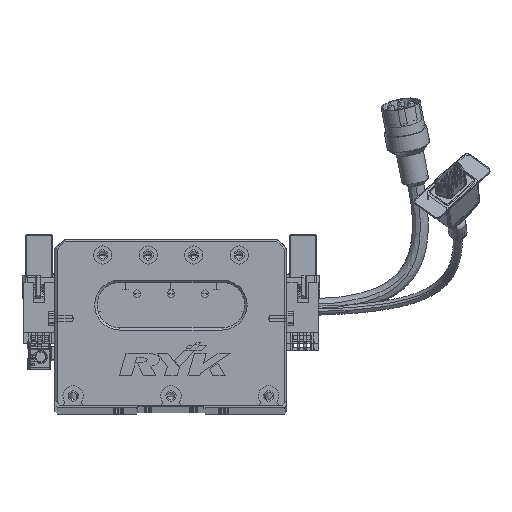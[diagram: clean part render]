
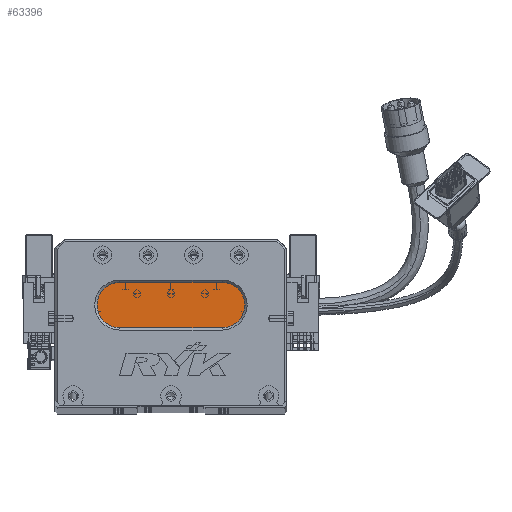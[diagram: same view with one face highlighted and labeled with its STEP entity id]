
A CAD part, top view. The second image highlights one B-rep face of the part: STEP entity #63396.
In plain terms, the highlighted planar face has unit normal (0, 0, 1) as drawn and (0, 0, -1) by its records, which use the part's own axes.
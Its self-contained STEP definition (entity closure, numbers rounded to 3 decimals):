
#1055 = DIRECTION ( 'NONE',  ( -1., 0., 0. ) ) ;
#1830 = CARTESIAN_POINT ( 'NONE',  ( 73.5, 44., 13. ) ) ;
#2141 = CARTESIAN_POINT ( 'NONE',  ( 28.5, 44., 13. ) ) ;
#2417 = ORIENTED_EDGE ( 'NONE', *, *, #19281, .T. ) ;
#2999 = AXIS2_PLACEMENT_3D ( 'NONE', #2141, #74095, #32669 ) ;
#4353 = CARTESIAN_POINT ( 'NONE',  ( 73.5, 34., 13. ) ) ;
#5243 = FACE_OUTER_BOUND ( 'NONE', #35099, .T. ) ;
#6584 = ORIENTED_EDGE ( 'NONE', *, *, #21841, .T. ) ;
#6749 = CARTESIAN_POINT ( 'NONE',  ( 28.5, 34., 13. ) ) ;
#8367 = VECTOR ( 'NONE', #76202, 1000. ) ;
#10508 = VERTEX_POINT ( 'NONE', #6749 ) ;
#11149 = CARTESIAN_POINT ( 'NONE',  ( 18.5, 44., 13. ) ) ;
#11442 = LINE ( 'NONE', #28009, #35642 ) ;
#11472 = CARTESIAN_POINT ( 'NONE',  ( 28.5, 54., 13. ) ) ;
#12181 = AXIS2_PLACEMENT_3D ( 'NONE', #1830, #13858, #1055 ) ;
#13858 = DIRECTION ( 'NONE',  ( 0., 0., -1. ) ) ;
#19261 = DIRECTION ( 'NONE',  ( -1., 0., 0. ) ) ;
#19281 = EDGE_CURVE ( 'NONE', #77359, #59869, #19593, .T. ) ;
#19593 = LINE ( 'NONE', #59003, #8367 ) ;
#21841 = EDGE_CURVE ( 'NONE', #10508, #38362, #77103, .T. ) ;
#21873 = CIRCLE ( 'NONE', #32222, 10. ) ;
#23909 = AXIS2_PLACEMENT_3D ( 'NONE', #60438, #24719, #32253 ) ;
#24719 = DIRECTION ( 'NONE',  ( 0., 0., -1. ) ) ;
#25232 = DIRECTION ( 'NONE',  ( 0., 0., -1. ) ) ;
#28009 = CARTESIAN_POINT ( 'NONE',  ( 73.5, 34., 13. ) ) ;
#31802 = PLANE ( 'NONE',  #12181 ) ;
#32222 = AXIS2_PLACEMENT_3D ( 'NONE', #72400, #25232, #19261 ) ;
#32253 = DIRECTION ( 'NONE',  ( -1., 0., 0. ) ) ;
#32539 = CARTESIAN_POINT ( 'NONE',  ( 73.5, 54., 13. ) ) ;
#32669 = DIRECTION ( 'NONE',  ( -1., 0., 0. ) ) ;
#35099 = EDGE_LOOP ( 'NONE', ( #44145, #40413, #6584, #72813, #2417 ) ) ;
#35642 = VECTOR ( 'NONE', #75443, 1000. ) ;
#38362 = VERTEX_POINT ( 'NONE', #11149 ) ;
#40413 = ORIENTED_EDGE ( 'NONE', *, *, #46760, .T. ) ;
#44145 = ORIENTED_EDGE ( 'NONE', *, *, #68112, .T. ) ;
#46760 = EDGE_CURVE ( 'NONE', #75207, #10508, #11442, .T. ) ;
#59003 = CARTESIAN_POINT ( 'NONE',  ( 73.5, 54., 13. ) ) ;
#59869 = VERTEX_POINT ( 'NONE', #32539 ) ;
#60438 = CARTESIAN_POINT ( 'NONE',  ( 73.5, 44., 13. ) ) ;
#63396 = ADVANCED_FACE ( 'NONE', ( #5243 ), #31802, .T. ) ;
#65273 = EDGE_CURVE ( 'NONE', #38362, #77359, #21873, .T. ) ;
#68112 = EDGE_CURVE ( 'NONE', #59869, #75207, #73611, .T. ) ;
#72400 = CARTESIAN_POINT ( 'NONE',  ( 28.5, 44., 13. ) ) ;
#72813 = ORIENTED_EDGE ( 'NONE', *, *, #65273, .T. ) ;
#73611 = CIRCLE ( 'NONE', #23909, 10. ) ;
#74095 = DIRECTION ( 'NONE',  ( 0., 0., -1. ) ) ;
#75207 = VERTEX_POINT ( 'NONE', #4353 ) ;
#75443 = DIRECTION ( 'NONE',  ( -1., 0., 0. ) ) ;
#76202 = DIRECTION ( 'NONE',  ( 1., 0., 0. ) ) ;
#77103 = CIRCLE ( 'NONE', #2999, 10. ) ;
#77359 = VERTEX_POINT ( 'NONE', #11472 ) ;
